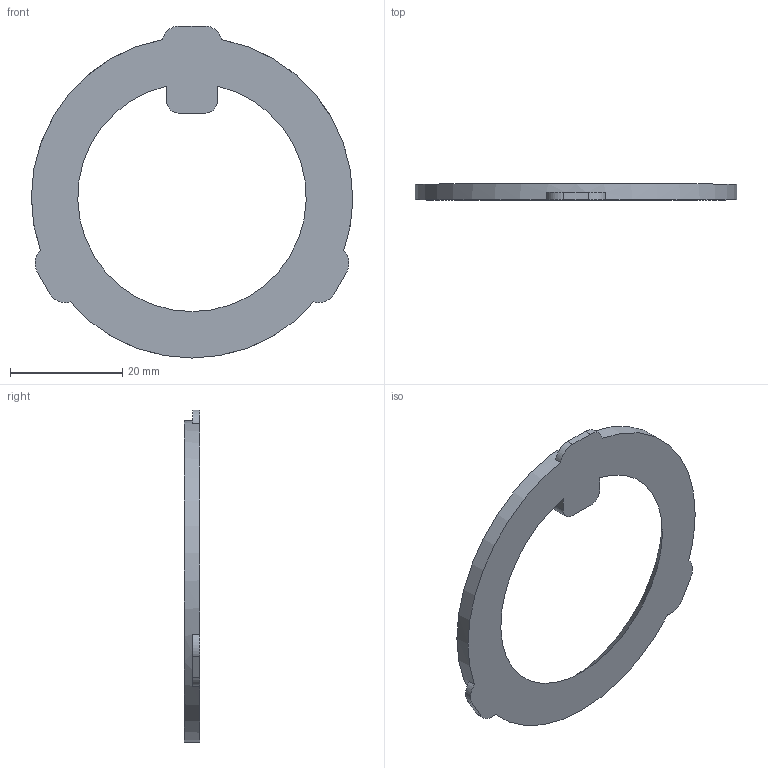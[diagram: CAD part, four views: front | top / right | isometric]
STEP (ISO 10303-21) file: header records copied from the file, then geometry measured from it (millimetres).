
FILE_DESCRIPTION(/* description */ ('Alibre Inc.'),/* implementation_level */ '2;1');
FILE_NAME(/* name */ 'export0',/* time_stamp */ '2017-02-12T12:04:58-05:00',/* author */ (''),/* organization */ (''),/* preprocessor_version */ 'ST-DEVELOPER v14',/* originating_system */ 'Alibre',/* authorisation */ '');
FILE_SCHEMA (('CONFIG_CONTROL_DESIGN'));
Length unit declared in the file: centimetre
Products named in the file (1): ID_1
Bounding box: 57.15 x 2.79 x 59.05 mm (x, y, z)
Volume: 3251.7 mm3; surface area: 3445.9 mm2
Topology: 1 solids, 1 shells, 21 faces, 57 edges, 38 vertices
Faces by surface type: plane 11, cylinder 9, cone 1
Full cylindrical faces by diameter (mm): 57.15 x1
Entity records: 728 total; most frequent: CARTESIAN_POINT 115, ORIENTED_EDGE 110, DIRECTION 105, EDGE_CURVE 55, AXIS2_PLACEMENT_3D 44, VERTEX_POINT 37, VECTOR 28, LINE 28
